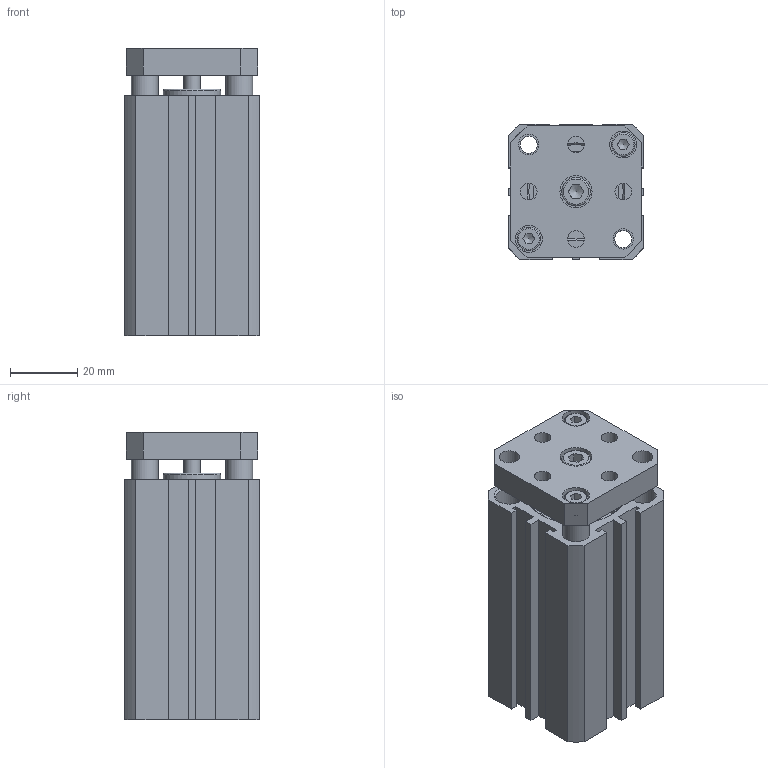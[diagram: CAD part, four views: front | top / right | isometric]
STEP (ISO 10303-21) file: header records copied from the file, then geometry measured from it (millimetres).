
FILE_DESCRIPTION((''),'2;1');
FILE_NAME('I:\3D電子目錄\氣缸\JTD\JTD\JTD25\JTD25x60.stp','2007-08-09T20:08:20',('Administrator'),(''),'Autodesk Inventor 11','Autodesk Inventor 11','');
FILE_SCHEMA(('AUTOMOTIVE_DESIGN { 1 0 10303 214 1 1 1 1 }'));
Length unit declared in the file: millimetre
Products named in the file (5): JTD25; R 形環 28; ISO 4762 M5 x 10; ISO 4762 M4 x 10
Assembly tree (6 placements, depth 2):
  JTD25
    JTD25
    R 形環 28  x2
    ISO 4762 M5 x 10
    ISO 4762 M4 x 10  x2
Bounding box: 40 x 40 x 85.2 mm (x, y, z)
Volume: 101436.2 mm3; surface area: 33363 mm2
Topology: 6 solids, 6 shells, 199 faces, 461 edges, 302 vertices
Faces by surface type: plane 111, cylinder 52, bspline 19, cone 12, torus 5
Full cylindrical faces by diameter (mm): 1.5 x2, 1.9 x4, 4 x2, 5 x1, 5.1 x2, 6 x2, 6.039 x2, 6.5 x2, 7 x2, 8 x6, 8.5 x1, 17 x2, 28 x4, 29.4 x2
Entity records: 5011 total; most frequent: CARTESIAN_POINT 1111, DIRECTION 778, ORIENTED_EDGE 676, EDGE_CURVE 338, AXIS2_PLACEMENT_3D 287, EDGE_LOOP 286, VERTEX_POINT 258, VECTOR 204
